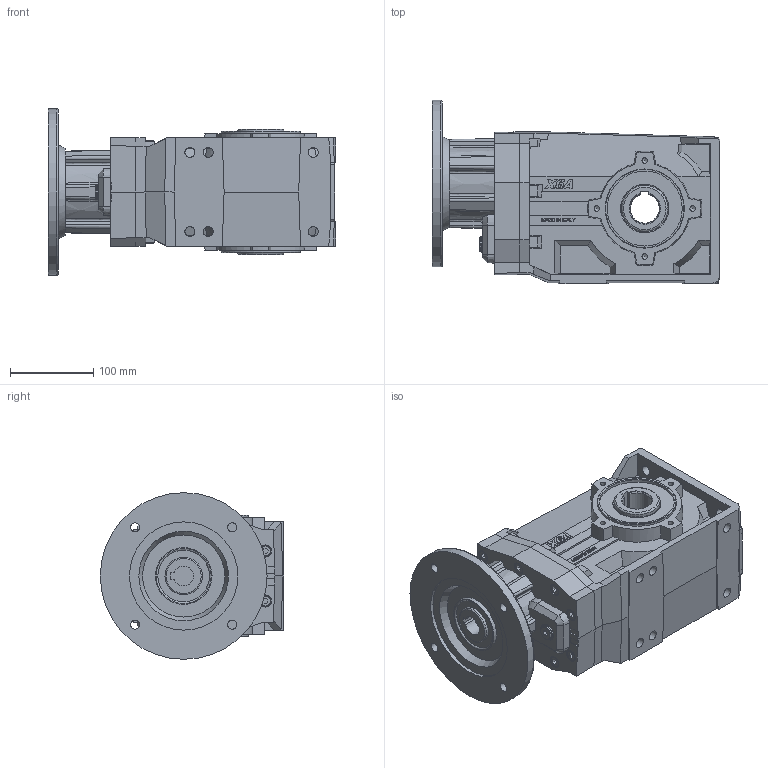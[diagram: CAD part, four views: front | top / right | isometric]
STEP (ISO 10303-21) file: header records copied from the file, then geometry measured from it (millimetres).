
FILE_DESCRIPTION( ( 'Unknown' ), '1' );
FILE_NAME( 'E:/services/configuratordownloads/customers/HYDROMEC/X/download/915EA8F9F2BD84C64DDEFB906CAAE05A/STEP/915EA8F9F2BD84C64DDEFB906CAAE05A.3d.stp', 'Unknown', ( 'Unknown' ), ( 'Unknown' ), 'PSStep 10.1', 'Unknown', ' ' );
FILE_SCHEMA( ( 'AUTOMOTIVE_DESIGN { 1 0 10303 214 1 1 1 1 }' ) );
Length unit declared in the file: millimetre
Products named in the file (1): X6A8800
Bounding box: 345 x 220 x 200 mm (x, y, z)
Volume: 5919572.7 mm3; surface area: 383721.6 mm2
Topology: 1 solids, 25 shells, 999 faces, 2519 edges, 1651 vertices
Faces by surface type: plane 713, cone 127, cylinder 98, torus 23, bspline 22, extrusion 16
Full cylindrical faces by diameter (mm): 4.917 x8, 6 x8, 6.647 x16, 11 x4, 12 x18, 13 x8, 13.5 x1, 18 x1, 19 x1, 21 x1, 45 x2, 55.05 x2, 68 x1, 75 x1, 90 x2, 95 x2, 130 x1, 200 x1
Entity records: 39986 total; most frequent: CARTESIAN_POINT 9484, ORIENTED_EDGE 4422, DIRECTION 4396, EDGE_CURVE 2211, VECTOR 1566, VERTEX_POINT 1559, LINE 1550, AXIS2_PLACEMENT_3D 1415
